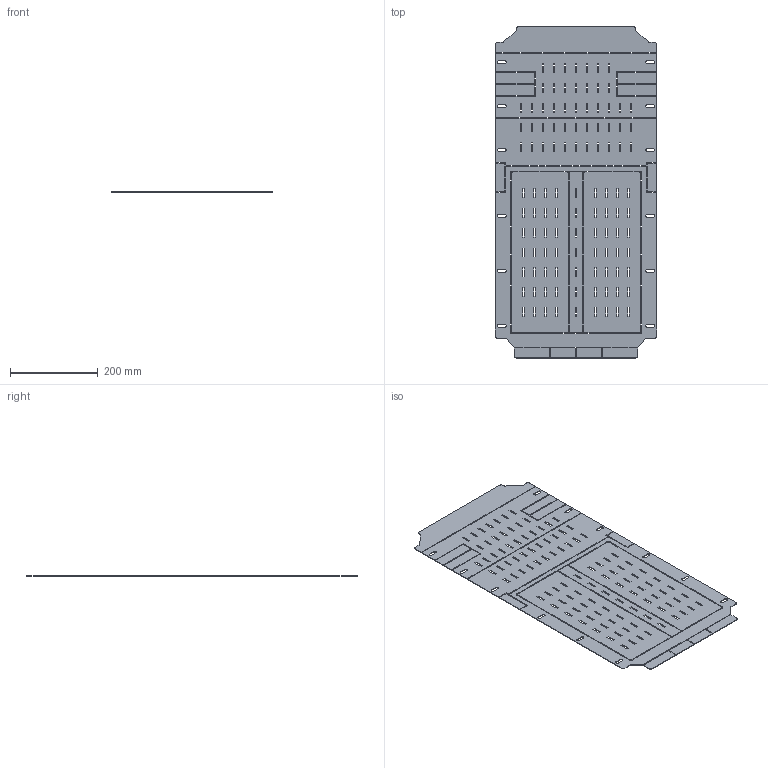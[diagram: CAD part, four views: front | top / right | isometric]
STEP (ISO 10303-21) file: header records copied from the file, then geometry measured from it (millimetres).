
FILE_DESCRIPTION(('STEP AP203'), '1');
FILE_NAME('Îãðàæäåíèå âåðõíåå ÔÁ Ø400õÃ800 ìì OptiBox M 419181 ÊÝÀÇ', '', ('UNSPECIFIED'), ('UNSPECIFIED'), 'C3D Converter', 'C3D Toolkit', '');
FILE_SCHEMA(('CONFIG_CONTROL_DESIGN'));
Length unit declared in the file: millimetre
Bounding box: 367 x 755 x 1.5 mm (x, y, z)
Volume: 378262.5 mm3; surface area: 529299.4 mm2
Topology: 1 solids, 1 shells, 894 faces, 2676 edges, 1784 vertices
Faces by surface type: plane 834, cylinder 60
Entity records: 30440 total; most frequent: CARTESIAN_POINT 5355, ORIENTED_EDGE 5352, DIRECTION 4586, EDGE_CURVE 2676, LINE 2556, VECTOR 2556, VERTEX_POINT 1784, FACE_BOUND 1304
